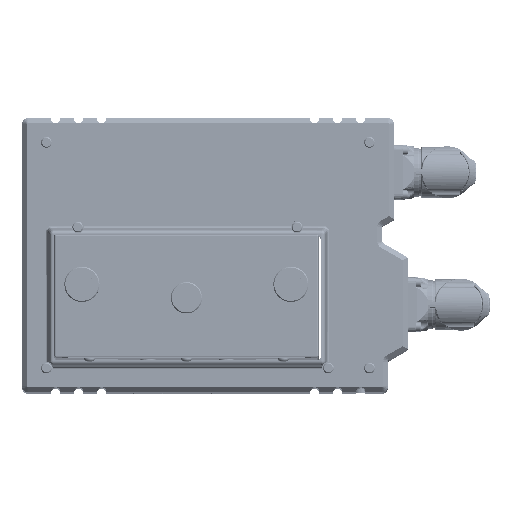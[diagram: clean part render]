
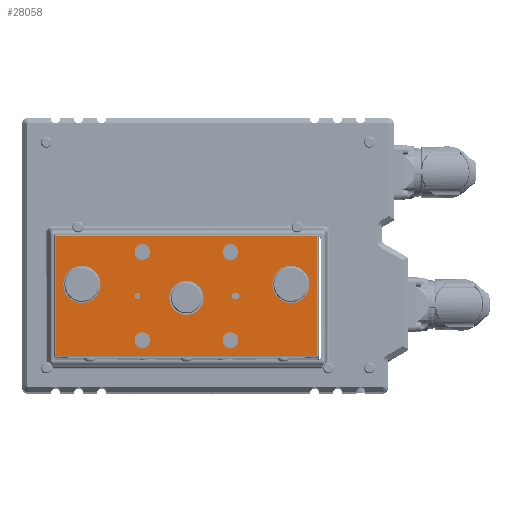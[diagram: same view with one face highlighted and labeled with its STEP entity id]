
A CAD part, top view. The second image highlights one B-rep face of the part: STEP entity #28058.
In plain terms, the highlighted planar face has unit normal (0, 0, 1).
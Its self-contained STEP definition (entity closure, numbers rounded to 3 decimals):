
#27144=CARTESIAN_POINT('',(-22.5,-22.5,19.05));
#27145=DIRECTION('',(0.,0.,-1.));
#27146=DIRECTION('',(-1.,0.,0.));
#27147=AXIS2_PLACEMENT_3D('',#27144,#27145,#27146);
#27149=CARTESIAN_POINT('',(-22.5,-22.5,19.05));
#27150=DIRECTION('',(0.,0.,-1.));
#27151=DIRECTION('',(1.,0.,0.));
#27152=AXIS2_PLACEMENT_3D('',#27149,#27150,#27151);
#27154=CARTESIAN_POINT('',(22.5,-22.5,19.05));
#27155=DIRECTION('',(0.,0.,-1.));
#27156=DIRECTION('',(-1.,0.,0.));
#27157=AXIS2_PLACEMENT_3D('',#27154,#27155,#27156);
#27159=CARTESIAN_POINT('',(22.5,-22.5,19.05));
#27160=DIRECTION('',(0.,0.,-1.));
#27161=DIRECTION('',(1.,0.,0.));
#27162=AXIS2_PLACEMENT_3D('',#27159,#27160,#27161);
#27164=CARTESIAN_POINT('',(-22.5,22.5,19.05));
#27165=DIRECTION('',(0.,0.,-1.));
#27166=DIRECTION('',(-1.,0.,0.));
#27167=AXIS2_PLACEMENT_3D('',#27164,#27165,#27166);
#27169=CARTESIAN_POINT('',(-22.5,22.5,19.05));
#27170=DIRECTION('',(0.,0.,-1.));
#27171=DIRECTION('',(1.,0.,0.));
#27172=AXIS2_PLACEMENT_3D('',#27169,#27170,#27171);
#27174=CARTESIAN_POINT('',(22.5,22.5,19.05));
#27175=DIRECTION('',(0.,0.,-1.));
#27176=DIRECTION('',(-1.,0.,0.));
#27177=AXIS2_PLACEMENT_3D('',#27174,#27175,#27176);
#27179=CARTESIAN_POINT('',(22.5,22.5,19.05));
#27180=DIRECTION('',(0.,0.,-1.));
#27181=DIRECTION('',(1.,0.,0.));
#27182=AXIS2_PLACEMENT_3D('',#27179,#27180,#27181);
#27184=CARTESIAN_POINT('',(53.375,5.995,19.05));
#27185=DIRECTION('',(0.,0.,1.));
#27186=DIRECTION('',(-1.,0.,0.));
#27187=AXIS2_PLACEMENT_3D('',#27184,#27185,#27186);
#27189=CARTESIAN_POINT('',(53.375,5.995,19.05));
#27190=DIRECTION('',(0.,0.,1.));
#27191=DIRECTION('',(1.,0.,0.));
#27192=AXIS2_PLACEMENT_3D('',#27189,#27190,#27191);
#27194=CARTESIAN_POINT('',(-53.375,5.995,19.05));
#27195=DIRECTION('',(0.,0.,1.));
#27196=DIRECTION('',(-1.,0.,0.));
#27197=AXIS2_PLACEMENT_3D('',#27194,#27195,#27196);
#27199=CARTESIAN_POINT('',(-53.375,5.995,19.05));
#27200=DIRECTION('',(0.,0.,1.));
#27201=DIRECTION('',(1.,0.,0.));
#27202=AXIS2_PLACEMENT_3D('',#27199,#27200,#27201);
#27204=DIRECTION('',(0.,1.,0.));
#27205=VECTOR('',#27204,61.);
#27206=CARTESIAN_POINT('',(66.5,-30.5,19.05));
#27207=LINE('',#27206,#27205);
#27208=DIRECTION('',(1.,0.,0.));
#27209=VECTOR('',#27208,133.);
#27210=CARTESIAN_POINT('',(-66.5,-30.5,19.05));
#27211=LINE('',#27210,#27209);
#27212=DIRECTION('',(0.,-1.,0.));
#27213=VECTOR('',#27212,61.);
#27214=CARTESIAN_POINT('',(-66.5,30.5,19.05));
#27215=LINE('',#27214,#27213);
#27216=DIRECTION('',(-1.,0.,0.));
#27217=VECTOR('',#27216,133.);
#27218=CARTESIAN_POINT('',(66.5,30.5,19.05));
#27219=LINE('',#27218,#27217);
#27220=CARTESIAN_POINT('',(0.,-0.881,19.05));
#27221=DIRECTION('',(0.,0.,1.));
#27222=DIRECTION('',(-1.,0.,0.));
#27223=AXIS2_PLACEMENT_3D('',#27220,#27221,#27222);
#27225=CARTESIAN_POINT('',(0.,-0.881,19.05));
#27226=DIRECTION('',(0.,0.,1.));
#27227=DIRECTION('',(1.,0.,0.));
#27228=AXIS2_PLACEMENT_3D('',#27225,#27226,#27227);
#27230=CARTESIAN_POINT('',(-25.,0.,19.05));
#27231=DIRECTION('',(0.,0.,-1.));
#27232=DIRECTION('',(-1.,0.,0.));
#27233=AXIS2_PLACEMENT_3D('',#27230,#27231,#27232);
#27235=CARTESIAN_POINT('',(-25.,0.,19.05));
#27236=DIRECTION('',(0.,0.,-1.));
#27237=DIRECTION('',(1.,0.,0.));
#27238=AXIS2_PLACEMENT_3D('',#27235,#27236,#27237);
#27240=CARTESIAN_POINT('',(24.5,0.,19.05));
#27241=DIRECTION('',(0.,0.,1.));
#27242=DIRECTION('',(0.,1.,0.));
#27243=AXIS2_PLACEMENT_3D('',#27240,#27241,#27242);
#27245=DIRECTION('',(1.,0.,0.));
#27246=VECTOR('',#27245,1.);
#27247=CARTESIAN_POINT('',(24.5,-1.519,19.05));
#27248=LINE('',#27247,#27246);
#27249=CARTESIAN_POINT('',(25.5,0.,19.05));
#27250=DIRECTION('',(0.,0.,1.));
#27251=DIRECTION('',(0.,-1.,0.));
#27252=AXIS2_PLACEMENT_3D('',#27249,#27250,#27251);
#27254=DIRECTION('',(-1.,0.,0.));
#27255=VECTOR('',#27254,1.);
#27256=CARTESIAN_POINT('',(25.5,1.519,19.05));
#27257=LINE('',#27256,#27255);
#27713=CARTESIAN_POINT('',(-26.5,-22.5,19.05));
#27714=CARTESIAN_POINT('',(-18.5,-22.5,19.05));
#27715=VERTEX_POINT('',#27713);
#27716=VERTEX_POINT('',#27714);
#27721=CARTESIAN_POINT('',(18.5,-22.5,19.05));
#27722=CARTESIAN_POINT('',(26.5,-22.5,19.05));
#27723=VERTEX_POINT('',#27721);
#27724=VERTEX_POINT('',#27722);
#27753=CARTESIAN_POINT('',(66.5,-30.5,19.05));
#27754=CARTESIAN_POINT('',(66.5,30.5,19.05));
#27755=VERTEX_POINT('',#27753);
#27756=VERTEX_POINT('',#27754);
#27761=CARTESIAN_POINT('',(-66.5,30.5,19.05));
#27762=VERTEX_POINT('',#27761);
#27767=CARTESIAN_POINT('',(-66.5,-30.5,19.05));
#27768=VERTEX_POINT('',#27767);
#27789=CARTESIAN_POINT('',(43.875,5.995,19.05));
#27790=CARTESIAN_POINT('',(62.875,5.995,19.05));
#27791=VERTEX_POINT('',#27789);
#27792=VERTEX_POINT('',#27790);
#27793=CARTESIAN_POINT('',(-62.875,5.995,19.05));
#27794=CARTESIAN_POINT('',(-43.875,5.995,19.05));
#27795=VERTEX_POINT('',#27793);
#27796=VERTEX_POINT('',#27794);
#27801=CARTESIAN_POINT('',(-26.5,22.5,19.05));
#27802=CARTESIAN_POINT('',(-18.5,22.5,19.05));
#27803=VERTEX_POINT('',#27801);
#27804=VERTEX_POINT('',#27802);
#27809=CARTESIAN_POINT('',(18.5,22.5,19.05));
#27810=CARTESIAN_POINT('',(26.5,22.5,19.05));
#27811=VERTEX_POINT('',#27809);
#27812=VERTEX_POINT('',#27810);
#27849=CARTESIAN_POINT('',(-8.75,-0.881,19.05));
#27850=CARTESIAN_POINT('',(8.75,-0.881,19.05));
#27851=VERTEX_POINT('',#27849);
#27852=VERTEX_POINT('',#27850);
#27857=CARTESIAN_POINT('',(-26.519,0.,19.05));
#27858=CARTESIAN_POINT('',(-23.481,0.,19.05));
#27859=VERTEX_POINT('',#27857);
#27860=VERTEX_POINT('',#27858);
#27869=CARTESIAN_POINT('',(24.5,1.519,19.05));
#27870=CARTESIAN_POINT('',(24.5,-1.519,19.05));
#27871=VERTEX_POINT('',#27869);
#27872=VERTEX_POINT('',#27870);
#27873=CARTESIAN_POINT('',(25.5,-1.519,19.05));
#27874=VERTEX_POINT('',#27873);
#27875=CARTESIAN_POINT('',(25.5,1.519,19.05));
#27876=VERTEX_POINT('',#27875);
#27986=CARTESIAN_POINT('',(0.,0.,19.05));
#27987=DIRECTION('',(0.,0.,1.));
#27988=DIRECTION('',(1.,0.,0.));
#27989=AXIS2_PLACEMENT_3D('',#27986,#27987,#27988);
#27990=PLANE('',#27989);
#27992=ORIENTED_EDGE('',*,*,#27991,.F.);
#27994=ORIENTED_EDGE('',*,*,#27993,.F.);
#27996=ORIENTED_EDGE('',*,*,#27995,.F.);
#27998=ORIENTED_EDGE('',*,*,#27997,.F.);
#27999=EDGE_LOOP('',(#27992,#27994,#27996,#27998));
#28000=FACE_OUTER_BOUND('',#27999,.F.);
#28002=ORIENTED_EDGE('',*,*,#28001,.F.);
#28004=ORIENTED_EDGE('',*,*,#28003,.F.);
#28005=EDGE_LOOP('',(#28002,#28004));
#28006=FACE_BOUND('',#28005,.F.);
#28008=ORIENTED_EDGE('',*,*,#28007,.F.);
#28010=ORIENTED_EDGE('',*,*,#28009,.F.);
#28011=EDGE_LOOP('',(#28008,#28010));
#28012=FACE_BOUND('',#28011,.F.);
#28014=ORIENTED_EDGE('',*,*,#28013,.F.);
#28016=ORIENTED_EDGE('',*,*,#28015,.F.);
#28017=EDGE_LOOP('',(#28014,#28016));
#28018=FACE_BOUND('',#28017,.F.);
#28020=ORIENTED_EDGE('',*,*,#28019,.F.);
#28022=ORIENTED_EDGE('',*,*,#28021,.F.);
#28023=EDGE_LOOP('',(#28020,#28022));
#28024=FACE_BOUND('',#28023,.F.);
#28025=ORIENTED_EDGE('',*,*,#27976,.T.);
#28027=ORIENTED_EDGE('',*,*,#28026,.T.);
#28028=EDGE_LOOP('',(#28025,#28027));
#28029=FACE_BOUND('',#28028,.F.);
#28031=ORIENTED_EDGE('',*,*,#28030,.T.);
#28033=ORIENTED_EDGE('',*,*,#28032,.T.);
#28034=EDGE_LOOP('',(#28031,#28033));
#28035=FACE_BOUND('',#28034,.F.);
#28037=ORIENTED_EDGE('',*,*,#28036,.T.);
#28039=ORIENTED_EDGE('',*,*,#28038,.T.);
#28040=EDGE_LOOP('',(#28037,#28039));
#28041=FACE_BOUND('',#28040,.F.);
#28043=ORIENTED_EDGE('',*,*,#28042,.F.);
#28045=ORIENTED_EDGE('',*,*,#28044,.F.);
#28046=EDGE_LOOP('',(#28043,#28045));
#28047=FACE_BOUND('',#28046,.F.);
#28049=ORIENTED_EDGE('',*,*,#28048,.T.);
#28051=ORIENTED_EDGE('',*,*,#28050,.T.);
#28053=ORIENTED_EDGE('',*,*,#28052,.T.);
#28055=ORIENTED_EDGE('',*,*,#28054,.T.);
#28056=EDGE_LOOP('',(#28049,#28051,#28053,#28055));
#28057=FACE_BOUND('',#28056,.F.);
#28058=ADVANCED_FACE('',(#28000,#28006,#28012,#28018,#28024,#28029,#28035,
#28041,#28047,#28057),#27990,.T.);
#27148=CIRCLE('',#27147,4.);
#27153=CIRCLE('',#27152,4.);
#27158=CIRCLE('',#27157,4.);
#27163=CIRCLE('',#27162,4.);
#27168=CIRCLE('',#27167,4.);
#27173=CIRCLE('',#27172,4.);
#27178=CIRCLE('',#27177,4.);
#27183=CIRCLE('',#27182,4.);
#27188=CIRCLE('',#27187,9.5);
#27193=CIRCLE('',#27192,9.5);
#27198=CIRCLE('',#27197,9.5);
#27203=CIRCLE('',#27202,9.5);
#27224=CIRCLE('',#27223,8.75);
#27229=CIRCLE('',#27228,8.75);
#27234=CIRCLE('',#27233,1.519);
#27239=CIRCLE('',#27238,1.519);
#27244=CIRCLE('',#27243,1.519);
#27253=CIRCLE('',#27252,1.519);
#27976=EDGE_CURVE('',#27791,#27792,#27188,.T.);
#27991=EDGE_CURVE('',#27755,#27756,#27207,.T.);
#27993=EDGE_CURVE('',#27768,#27755,#27211,.T.);
#27995=EDGE_CURVE('',#27762,#27768,#27215,.T.);
#27997=EDGE_CURVE('',#27756,#27762,#27219,.T.);
#28001=EDGE_CURVE('',#27715,#27716,#27148,.T.);
#28003=EDGE_CURVE('',#27716,#27715,#27153,.T.);
#28007=EDGE_CURVE('',#27723,#27724,#27158,.T.);
#28009=EDGE_CURVE('',#27724,#27723,#27163,.T.);
#28013=EDGE_CURVE('',#27803,#27804,#27168,.T.);
#28015=EDGE_CURVE('',#27804,#27803,#27173,.T.);
#28019=EDGE_CURVE('',#27811,#27812,#27178,.T.);
#28021=EDGE_CURVE('',#27812,#27811,#27183,.T.);
#28026=EDGE_CURVE('',#27792,#27791,#27193,.T.);
#28030=EDGE_CURVE('',#27795,#27796,#27198,.T.);
#28032=EDGE_CURVE('',#27796,#27795,#27203,.T.);
#28036=EDGE_CURVE('',#27851,#27852,#27224,.T.);
#28038=EDGE_CURVE('',#27852,#27851,#27229,.T.);
#28042=EDGE_CURVE('',#27859,#27860,#27234,.T.);
#28044=EDGE_CURVE('',#27860,#27859,#27239,.T.);
#28048=EDGE_CURVE('',#27871,#27872,#27244,.T.);
#28050=EDGE_CURVE('',#27872,#27874,#27248,.T.);
#28052=EDGE_CURVE('',#27874,#27876,#27253,.T.);
#28054=EDGE_CURVE('',#27876,#27871,#27257,.T.);
